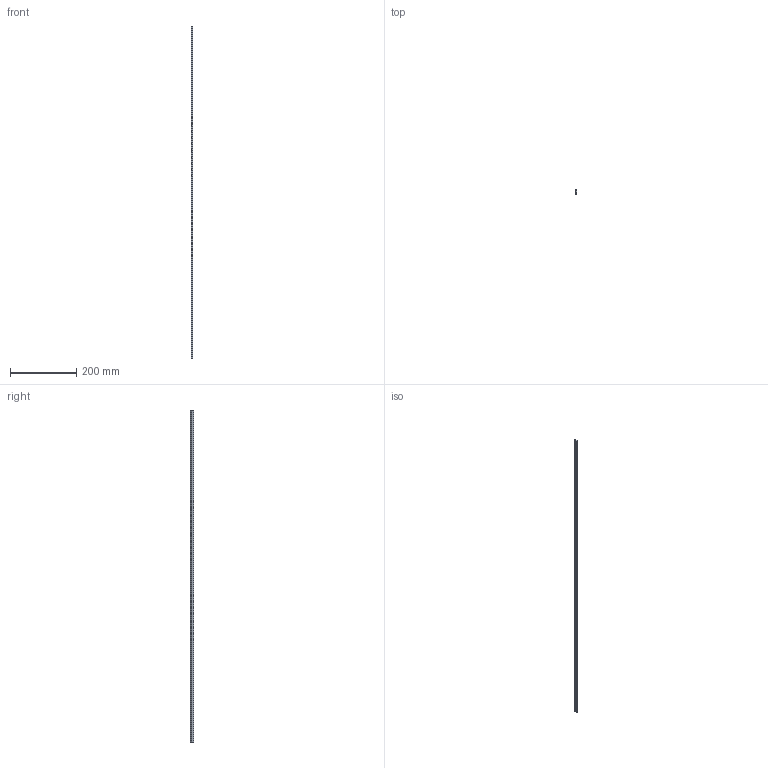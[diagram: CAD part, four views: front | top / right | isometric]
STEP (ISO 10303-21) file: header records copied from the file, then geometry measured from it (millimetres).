
FILE_DESCRIPTION(('STEP AP203'),'1');
FILE_NAME('T1-1000.stp','2020-09-30T01:57:06',(' '),(' '),'Spatial InterOp 3D',' ',' ');
FILE_SCHEMA(('CONFIG_CONTROL_DESIGN'));
Length unit declared in the file: millimetre
Products named in the file (1): T1-1000
Bounding box: 4.75 x 10.99 x 1000 mm (x, y, z)
Volume: 34312.5 mm3; surface area: 28312.4 mm2
Topology: 1 solids, 1 shells, 17 faces, 45 edges, 30 vertices
Faces by surface type: plane 9, cylinder 8
Entity records: 597 total; most frequent: DIRECTION 97, CARTESIAN_POINT 93, ORIENTED_EDGE 90, EDGE_CURVE 45, AXIS2_PLACEMENT_3D 34, VERTEX_POINT 30, LINE 29, VECTOR 29
